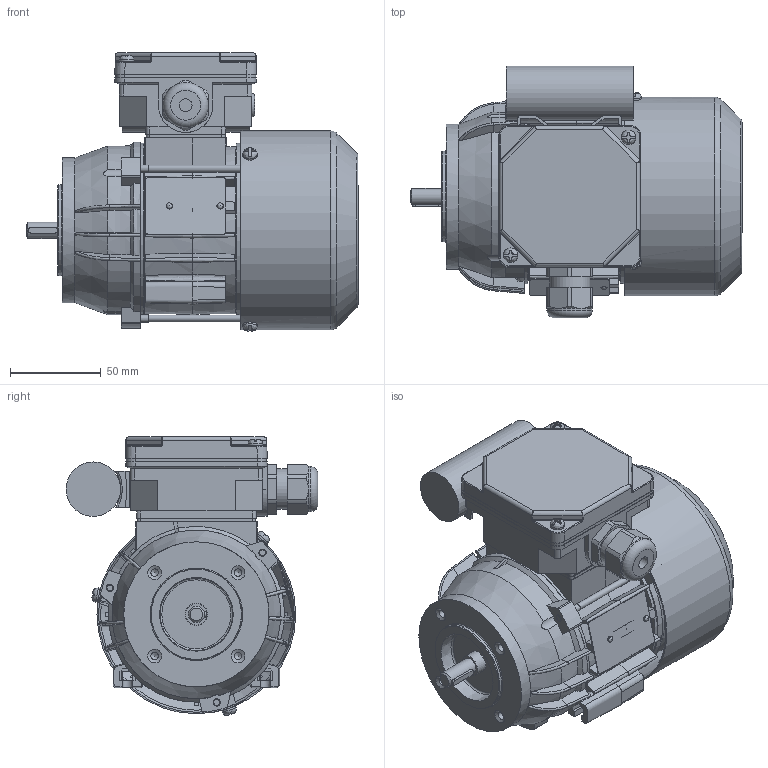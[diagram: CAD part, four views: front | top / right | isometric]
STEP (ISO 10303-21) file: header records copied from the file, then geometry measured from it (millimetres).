
FILE_DESCRIPTION( ( 'Unknown' ), '1' );
FILE_NAME( 'G:/Poczta Tk-1/STP/w.m.56/SEh56/SE(M)Kh56-A2.stp', 'Unknown', ( 'K. Szlosek' ), ( 'BESEL S.A.' ), 'PSStep 17.0.49', 'Unknown', ' ' );
FILE_SCHEMA( ( 'AUTOMOTIVE_DESIGN { 1 0 10303 214 1 1 1 1 }' ) );
Length unit declared in the file: millimetre
Products named in the file (31): Assem1; K4-2320 Uszczelka nr 1 Sh71,80; K3-9987 kadłub ze stojanem Sh56-B; K3-2193 Tarcza łożyskowa P Sg56-2..; K3-9990 wał Sh56-B; K2-0860 Pokrywka skrzynki zaciskowej; Wpust A3x3x16; K4-2820 Uszczelka nr 2 Sh71,80; Wkręt samogwintujący M4x8; Wkręt samogwintujący M4x16; K2-0879 Przewietrznik Sg56; Nitokołek A 2x6; K3-9440 Podstawa  skrzynki zaciskowej SEhR71-D; K4-0898 Tulejka uszczelniająca; K3-1974 Uchwyt kondensatora (mały); Kondensator bb 8uF; K1-0533 Tarcza kołnierzowa B14_2 SKg56-..2; K3-11363 Osłona przewietrznika Sh 56_A; Śruba ściągająca E_M4x75; Tabliczka znamionowa 32x44; Łożysko 6201; Dławnica M20x1,5
Assembly tree (46 placements, depth 2):
  Assem1
    K4-2320 Uszczelka nr 1 Sh71,80
    K3-9987 kadłub ze stojanem Sh56-B
    K3-2193 Tarcza łożyskowa P Sg56-2..
    K3-9990 wał Sh56-B
    K2-0860 Pokrywka skrzynki zaciskowej
    Wpust A3x3x16
    K4-2820 Uszczelka nr 2 Sh71,80
    Wkręt samogwintujący M4x8  x3
    Wkręt samogwintujący M4x16  x2
    K2-0879 Przewietrznik Sg56
    Nitokołek A 2x6  x2
    K3-9440 Podstawa  skrzynki zaciskowej SEhR71-D
    K4-0898 Tulejka uszczelniająca
    K3-1974 Uchwyt kondensatora (mały)
    Kondensator bb 8uF
    K1-0533 Tarcza kołnierzowa B14_2 SKg56-..2
    K3-11363 Osłona przewietrznika Sh 56_A
    Śruba ściągająca E_M4x75  x3
    Tabliczka znamionowa 32x44
    Łożysko 6201  x2
    Łożysko 6201  x2
    Łożysko 6201  x2
    Łożysko 6201  x2
    Łożysko 6201  x2
    Łożysko 6201  x2
    Łożysko 6201  x2
    Łożysko 6201  x2
    Łożysko 6201  x2
    Łożysko 6201  x2
    Dławnica M20x1,5
Bounding box: 183 x 138.82 x 153.72 mm (x, y, z)
Volume: 437660.7 mm3; surface area: 299395.6 mm2
Topology: 46 solids, 62 shells, 1831 faces, 4958 edges, 3211 vertices
Faces by surface type: plane 948, cylinder 523, cone 132, torus 100, bspline 94, sphere 34
Full cylindrical faces by diameter (mm): 2 x2, 2.4 x2, 3 x1, 3.242 x3, 3.5 x2, 3.7 x10, 4 x8, 4.134 x4, 4.5 x4, 4.6 x2, 4.8 x4, 5 x4, 6.5 x1, 7 x4, 8 x6, 9 x1, 10 x2, 10.9 x1, 11 x1, 11.5 x1, 11.8 x2, 12 x4, 12.4 x2, 15.5 x1, 16 x1, 16.1 x1, 17 x2, 18.38 x1, 18.5 x1, 18.52 x4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
Entity records: 74902 total; most frequent: CARTESIAN_POINT 20664, ORIENTED_EDGE 8520, DIRECTION 8456, EDGE_CURVE 4260, AXIS2_PLACEMENT_3D 3153, VERTEX_POINT 2898, LINE 2150, VECTOR 2150
